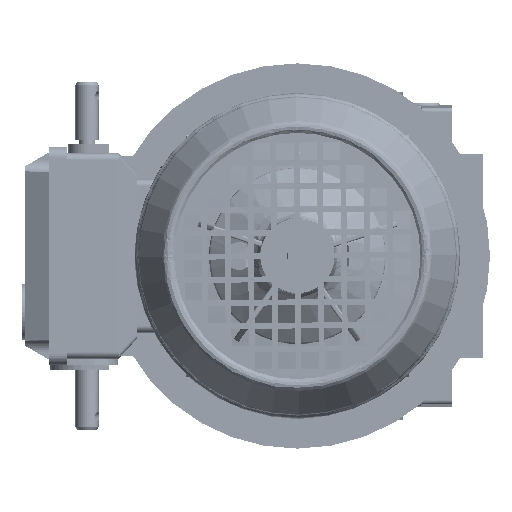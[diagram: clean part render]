
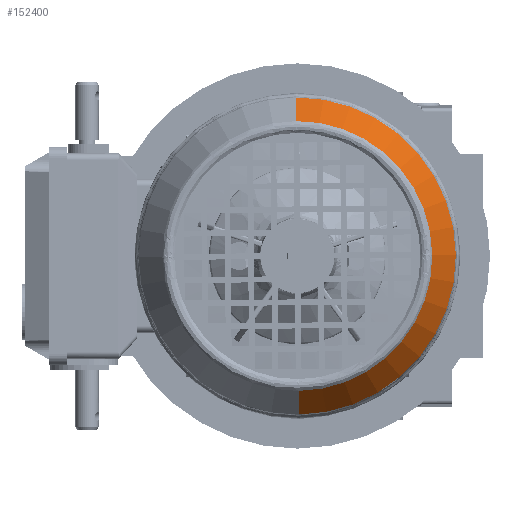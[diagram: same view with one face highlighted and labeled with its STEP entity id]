
A CAD part, front view. The second image highlights one B-rep face of the part: STEP entity #152400.
In plain terms, the highlighted conical face has half-angle 31.341 degrees and reference radius 68.208 mm.
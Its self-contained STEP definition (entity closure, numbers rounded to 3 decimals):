
#1619 = EDGE_CURVE ( 'NONE', #49940, #78795, #148232, .T. ) ;
#13802 = CARTESIAN_POINT ( 'NONE',  ( 68.208, 0., 55.898 ) ) ;
#14267 = AXIS2_PLACEMENT_3D ( 'NONE', #14650, #119941, #66046 ) ;
#14650 = CARTESIAN_POINT ( 'NONE',  ( 0., 0., 72.56 ) ) ;
#17760 = CARTESIAN_POINT ( 'NONE',  ( 0., -68.208, 55.898 ) ) ;
#18935 = CARTESIAN_POINT ( 'NONE',  ( 0., -68.208, 55.898 ) ) ;
#19630 = DIRECTION ( 'NONE',  ( -1., 0., 0. ) ) ;
#34505 = CARTESIAN_POINT ( 'NONE',  ( 0., 0., 55.898 ) ) ;
#35282 = ORIENTED_EDGE ( 'NONE', *, *, #140688, .F. ) ;
#40570 = ORIENTED_EDGE ( 'NONE', *, *, #131274, .T. ) ;
#41274 = DIRECTION ( 'NONE',  ( 0., 0., -1. ) ) ;
#46611 = DIRECTION ( 'NONE',  ( 0., 0., -1. ) ) ;
#49701 = CIRCLE ( 'NONE', #156242, 58.061 ) ;
#49887 = FACE_OUTER_BOUND ( 'NONE', #80936, .T. ) ;
#49940 = VERTEX_POINT ( 'NONE', #97798 ) ;
#56972 = DIRECTION ( 'NONE',  ( 0., 0., -1. ) ) ;
#58257 = CIRCLE ( 'NONE', #60929, 68.208 ) ;
#60929 = AXIS2_PLACEMENT_3D ( 'NONE', #148533, #56972, #151046 ) ;
#64140 = CARTESIAN_POINT ( 'NONE',  ( 0., 68.208, 55.898 ) ) ;
#64583 = CONICAL_SURFACE ( 'NONE', #149398, 68.208, 0.547 ) ;
#66046 = DIRECTION ( 'NONE',  ( -1., 0., 0. ) ) ;
#67440 = LINE ( 'NONE', #17760, #72766 ) ;
#68600 = VERTEX_POINT ( 'NONE', #18935 ) ;
#69996 = DIRECTION ( 'NONE',  ( 0., -0.52, -0.854 ) ) ;
#72766 = VECTOR ( 'NONE', #69996, 1000. ) ;
#74127 = CARTESIAN_POINT ( 'NONE',  ( 0., -58.061, 72.56 ) ) ;
#78657 = CARTESIAN_POINT ( 'NONE',  ( 0., 68.208, 55.898 ) ) ;
#78795 = VERTEX_POINT ( 'NONE', #74127 ) ;
#80936 = EDGE_LOOP ( 'NONE', ( #107587, #164762, #40570, #168469, #35282, #98682 ) ) ;
#86830 = CARTESIAN_POINT ( 'NONE',  ( 0., 0., 55.898 ) ) ;
#96242 = EDGE_CURVE ( 'NONE', #98325, #49940, #49701, .T. ) ;
#97798 = CARTESIAN_POINT ( 'NONE',  ( 58.061, 0., 72.56 ) ) ;
#97805 = CARTESIAN_POINT ( 'NONE',  ( 0., 58.061, 72.56 ) ) ;
#98104 = EDGE_CURVE ( 'NONE', #113910, #68600, #58257, .T. ) ;
#98325 = VERTEX_POINT ( 'NONE', #97805 ) ;
#98374 = CARTESIAN_POINT ( 'NONE',  ( 0., 0., 72.56 ) ) ;
#98682 = ORIENTED_EDGE ( 'NONE', *, *, #126396, .F. ) ;
#100921 = VERTEX_POINT ( 'NONE', #78657 ) ;
#104623 = DIRECTION ( 'NONE',  ( 0., 1., 0. ) ) ;
#107587 = ORIENTED_EDGE ( 'NONE', *, *, #96242, .T. ) ;
#113910 = VERTEX_POINT ( 'NONE', #13802 ) ;
#116368 = DIRECTION ( 'NONE',  ( 0., 0.52, -0.854 ) ) ;
#119871 = CIRCLE ( 'NONE', #158110, 68.208 ) ;
#119941 = DIRECTION ( 'NONE',  ( 0., 0., -1. ) ) ;
#126396 = EDGE_CURVE ( 'NONE', #98325, #100921, #145433, .T. ) ;
#129471 = VECTOR ( 'NONE', #116368, 1000. ) ;
#131274 = EDGE_CURVE ( 'NONE', #78795, #68600, #67440, .T. ) ;
#138988 = DIRECTION ( 'NONE',  ( -1., 0., 0. ) ) ;
#140688 = EDGE_CURVE ( 'NONE', #100921, #113910, #119871, .T. ) ;
#145433 = LINE ( 'NONE', #64140, #129471 ) ;
#148232 = CIRCLE ( 'NONE', #14267, 58.061 ) ;
#148533 = CARTESIAN_POINT ( 'NONE',  ( 0., 0., 55.898 ) ) ;
#149398 = AXIS2_PLACEMENT_3D ( 'NONE', #34505, #41274, #104623 ) ;
#151046 = DIRECTION ( 'NONE',  ( -1., 0., 0. ) ) ;
#152400 = ADVANCED_FACE ( 'NONE', ( #49887 ), #64583, .T. ) ;
#156242 = AXIS2_PLACEMENT_3D ( 'NONE', #98374, #160916, #19630 ) ;
#158110 = AXIS2_PLACEMENT_3D ( 'NONE', #86830, #46611, #138988 ) ;
#160916 = DIRECTION ( 'NONE',  ( 0., 0., -1. ) ) ;
#164762 = ORIENTED_EDGE ( 'NONE', *, *, #1619, .T. ) ;
#168469 = ORIENTED_EDGE ( 'NONE', *, *, #98104, .F. ) ;
